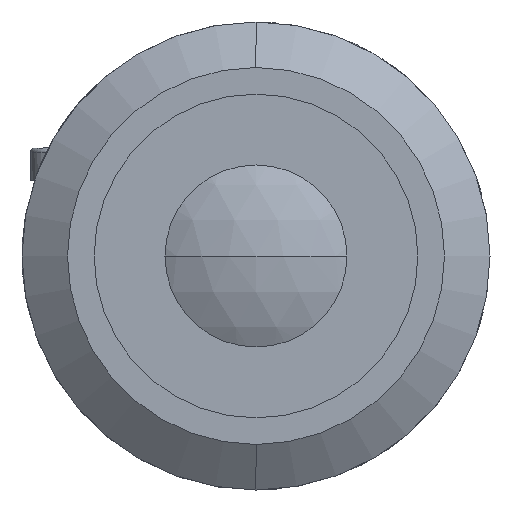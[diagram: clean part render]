
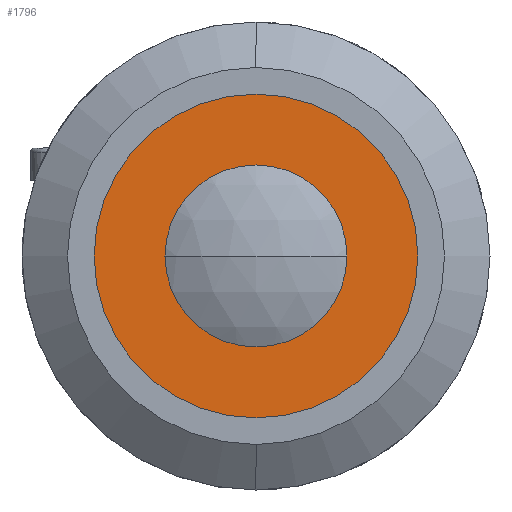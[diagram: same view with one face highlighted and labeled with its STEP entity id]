
A CAD part, left-side view. The second image highlights one B-rep face of the part: STEP entity #1796.
In plain terms, the highlighted planar face has unit normal (-1, 0, 0).
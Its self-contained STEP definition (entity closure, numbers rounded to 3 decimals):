
#14 = EDGE_CURVE ( 'NONE', #158, #2036, #1103, .T. ) ;
#28 = CARTESIAN_POINT ( 'NONE',  ( 3.8, 0., 0. ) ) ;
#38 = DIRECTION ( 'NONE',  ( 0., 0., 1. ) ) ;
#96 = CARTESIAN_POINT ( 'NONE',  ( 3.8, 0., 7. ) ) ;
#158 = VERTEX_POINT ( 'NONE', #96 ) ;
#237 = FACE_OUTER_BOUND ( 'NONE', #2241, .T. ) ;
#303 = CIRCLE ( 'NONE', #1284, 7. ) ;
#637 = FACE_BOUND ( 'NONE', #2677, .T. ) ;
#674 = CARTESIAN_POINT ( 'NONE',  ( 3.8, 13., 0. ) ) ;
#687 = DIRECTION ( 'NONE',  ( 0., 0., -1. ) ) ;
#742 = AXIS2_PLACEMENT_3D ( 'NONE', #674, #2349, #687 ) ;
#873 = CARTESIAN_POINT ( 'NONE',  ( 3.8, 0., -7. ) ) ;
#891 = AXIS2_PLACEMENT_3D ( 'NONE', #28, #1673, #38 ) ;
#931 = ORIENTED_EDGE ( 'NONE', *, *, #14, .F. ) ;
#947 = CARTESIAN_POINT ( 'NONE',  ( 3.8, 0., 0. ) ) ;
#953 = ORIENTED_EDGE ( 'NONE', *, *, #1683, .F. ) ;
#981 = ORIENTED_EDGE ( 'NONE', *, *, #2143, .T. ) ;
#1019 = ORIENTED_EDGE ( 'NONE', *, *, #1617, .T. ) ;
#1103 = CIRCLE ( 'NONE', #891, 7. ) ;
#1116 = DIRECTION ( 'NONE',  ( 0., 0., 1. ) ) ;
#1209 = DIRECTION ( 'NONE',  ( 0., 0., 1. ) ) ;
#1284 = AXIS2_PLACEMENT_3D ( 'NONE', #3086, #1422, #3360 ) ;
#1375 = AXIS2_PLACEMENT_3D ( 'NONE', #1917, #3466, #1116 ) ;
#1422 = DIRECTION ( 'NONE',  ( -1., 0., 0. ) ) ;
#1506 = VERTEX_POINT ( 'NONE', #3478 ) ;
#1519 = CARTESIAN_POINT ( 'NONE',  ( 3.8, 0., 13. ) ) ;
#1617 = EDGE_CURVE ( 'NONE', #1506, #2207, #2525, .T. ) ;
#1673 = DIRECTION ( 'NONE',  ( -1., 0., 0. ) ) ;
#1683 = EDGE_CURVE ( 'NONE', #2036, #158, #303, .T. ) ;
#1796 = ADVANCED_FACE ( 'NONE', ( #637, #237 ), #2334, .F. ) ;
#1917 = CARTESIAN_POINT ( 'NONE',  ( 3.8, 0., 0. ) ) ;
#2036 = VERTEX_POINT ( 'NONE', #873 ) ;
#2143 = EDGE_CURVE ( 'NONE', #2207, #1506, #2464, .T. ) ;
#2207 = VERTEX_POINT ( 'NONE', #1519 ) ;
#2241 = EDGE_LOOP ( 'NONE', ( #981, #1019 ) ) ;
#2334 = PLANE ( 'NONE',  #742 ) ;
#2349 = DIRECTION ( 'NONE',  ( 1., 0., 0. ) ) ;
#2464 = CIRCLE ( 'NONE', #3285, 13. ) ;
#2525 = CIRCLE ( 'NONE', #1375, 13. ) ;
#2677 = EDGE_LOOP ( 'NONE', ( #931, #953 ) ) ;
#2876 = DIRECTION ( 'NONE',  ( -1., 0., 0. ) ) ;
#3086 = CARTESIAN_POINT ( 'NONE',  ( 3.8, 0., 0. ) ) ;
#3285 = AXIS2_PLACEMENT_3D ( 'NONE', #947, #2876, #1209 ) ;
#3360 = DIRECTION ( 'NONE',  ( 0., 0., 1. ) ) ;
#3466 = DIRECTION ( 'NONE',  ( -1., 0., 0. ) ) ;
#3478 = CARTESIAN_POINT ( 'NONE',  ( 3.8, 0., -13. ) ) ;
